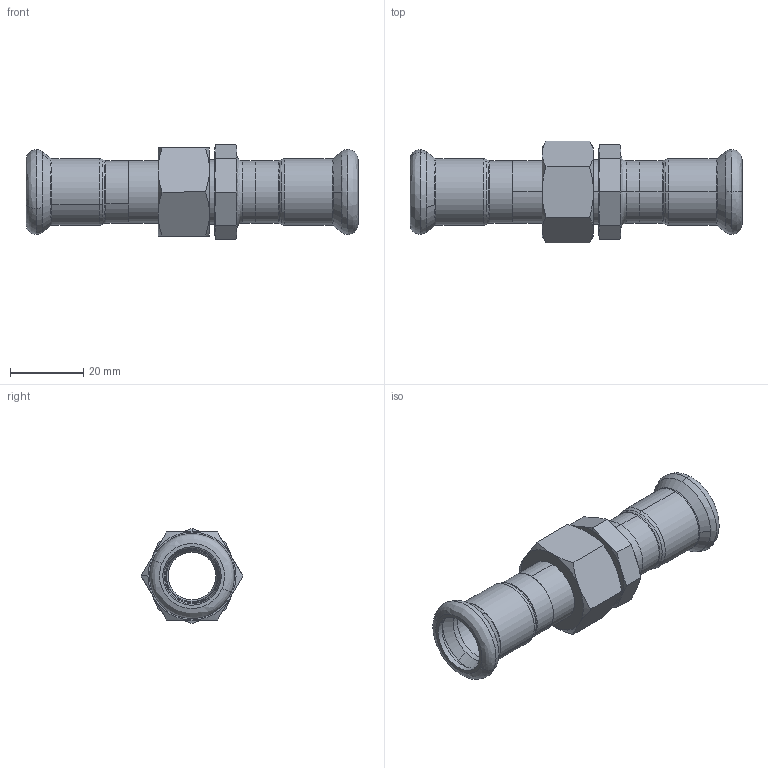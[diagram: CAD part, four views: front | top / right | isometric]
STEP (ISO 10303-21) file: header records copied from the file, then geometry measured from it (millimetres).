
FILE_DESCRIPTION (( 'STEP AP203' ), '1' );
FILE_NAME ('GDA5471.STEP', '2019-01-17T02:08:13', ( '' ), ( '' ), 'SwSTEP 2.0', 'SolidWorks 2015', '' );
FILE_SCHEMA (( 'CONFIG_CONTROL_DESIGN' ));
Length unit declared in the file: millimetre
Products named in the file (7): 15; 0.5; T-ｉ-01-15; UN-Ⅰ-01×_; ZL-Ⅰ-01×_; GDA5471; 15｡ﾁ_
Assembly tree (7 placements, depth 3):
  GDA5471
    15｡ﾁ_
    0.5
    15  x2
      T-ｉ-01-15
    ZL-Ⅰ-01×_
    UN-Ⅰ-01×_
Bounding box: 90.5 x 27.71 x 25.98 mm (x, y, z)
Volume: 13456.4 mm3; surface area: 14092.6 mm2
Topology: 6 solids, 6 shells, 178 faces, 392 edges, 233 vertices
Faces by surface type: cone 57, cylinder 46, bspline 42, plane 33
Entity records: 5236 total; most frequent: CARTESIAN_POINT 1539, DIRECTION 653, ORIENTED_EDGE 596, EDGE_CURVE 298, AXIS2_PLACEMENT_3D 291, VERTEX_POINT 177, CIRCLE 165, EDGE_LOOP 153
